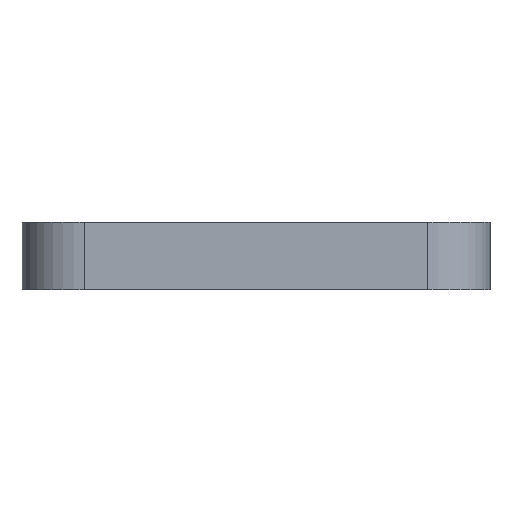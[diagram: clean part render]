
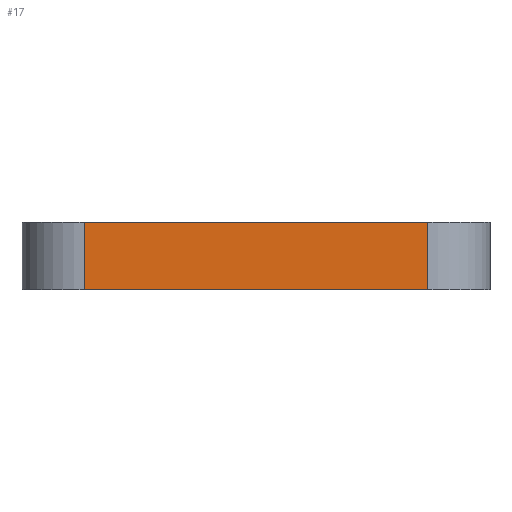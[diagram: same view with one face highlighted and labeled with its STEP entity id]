
A CAD part, left-side view. The second image highlights one B-rep face of the part: STEP entity #17.
In plain terms, the highlighted planar face has unit normal (-1, 0, 0).
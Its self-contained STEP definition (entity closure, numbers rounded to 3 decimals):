
#17 = ADVANCED_FACE('',(#18),#32,.F.);
#18 = FACE_BOUND('',#19,.F.);
#19 = EDGE_LOOP('',(#20,#55,#83,#111));
#20 = ORIENTED_EDGE('',*,*,#21,.T.);
#21 = EDGE_CURVE('',#22,#24,#26,.T.);
#22 = VERTEX_POINT('',#23);
#23 = CARTESIAN_POINT('',(-26.,-17.15,11.26));
#24 = VERTEX_POINT('',#25);
#25 = CARTESIAN_POINT('',(-26.,-19.35,11.26));
#26 = SURFACE_CURVE('',#27,(#31,#43),.PCURVE_S1.);
#27 = LINE('',#28,#29);
#28 = CARTESIAN_POINT('',(-26.,-59.875,11.26));
#29 = VECTOR('',#30,1.);
#30 = DIRECTION('',(0.,-1.,0.));
#31 = PCURVE('',#32,#37);
#32 = PLANE('',#33);
#33 = AXIS2_PLACEMENT_3D('',#34,#35,#36);
#34 = CARTESIAN_POINT('',(-26.,-19.75,10.83));
#35 = DIRECTION('',(1.,0.,0.));
#36 = DIRECTION('',(0.,0.,1.));
#37 = DEFINITIONAL_REPRESENTATION('',(#38),#42);
#38 = LINE('',#39,#40);
#39 = CARTESIAN_POINT('',(0.43,40.125));
#40 = VECTOR('',#41,1.);
#41 = DIRECTION('',(0.,1.));
#42 = ( GEOMETRIC_REPRESENTATION_CONTEXT(2) 
PARAMETRIC_REPRESENTATION_CONTEXT() REPRESENTATION_CONTEXT('2D SPACE',''
  ) );
#43 = PCURVE('',#44,#49);
#44 = PLANE('',#45);
#45 = AXIS2_PLACEMENT_3D('',#46,#47,#48);
#46 = CARTESIAN_POINT('',(-124.,-100.,11.26));
#47 = DIRECTION('',(0.,0.,1.));
#48 = DIRECTION('',(1.,0.,0.));
#49 = DEFINITIONAL_REPRESENTATION('',(#50),#54);
#50 = LINE('',#51,#52);
#51 = CARTESIAN_POINT('',(98.,40.125));
#52 = VECTOR('',#53,1.);
#53 = DIRECTION('',(0.,-1.));
#54 = ( GEOMETRIC_REPRESENTATION_CONTEXT(2) 
PARAMETRIC_REPRESENTATION_CONTEXT() REPRESENTATION_CONTEXT('2D SPACE',''
  ) );
#55 = ORIENTED_EDGE('',*,*,#56,.F.);
#56 = EDGE_CURVE('',#57,#24,#59,.T.);
#57 = VERTEX_POINT('',#58);
#58 = CARTESIAN_POINT('',(-26.,-19.35,10.83));
#59 = SURFACE_CURVE('',#60,(#64,#71),.PCURVE_S1.);
#60 = LINE('',#61,#62);
#61 = CARTESIAN_POINT('',(-26.,-19.35,10.83));
#62 = VECTOR('',#63,1.);
#63 = DIRECTION('',(0.,0.,1.));
#64 = PCURVE('',#32,#65);
#65 = DEFINITIONAL_REPRESENTATION('',(#66),#70);
#66 = LINE('',#67,#68);
#67 = CARTESIAN_POINT('',(0.,-0.4));
#68 = VECTOR('',#69,1.);
#69 = DIRECTION('',(1.,0.));
#70 = ( GEOMETRIC_REPRESENTATION_CONTEXT(2) 
PARAMETRIC_REPRESENTATION_CONTEXT() REPRESENTATION_CONTEXT('2D SPACE',''
  ) );
#71 = PCURVE('',#72,#77);
#72 = CYLINDRICAL_SURFACE('',#73,0.4);
#73 = AXIS2_PLACEMENT_3D('',#74,#75,#76);
#74 = CARTESIAN_POINT('',(-25.6,-19.35,10.83));
#75 = DIRECTION('',(0.,0.,1.));
#76 = DIRECTION('',(-1.,-0.,0.));
#77 = DEFINITIONAL_REPRESENTATION('',(#78),#82);
#78 = LINE('',#79,#80);
#79 = CARTESIAN_POINT('',(0.,0.));
#80 = VECTOR('',#81,1.);
#81 = DIRECTION('',(0.,1.));
#82 = ( GEOMETRIC_REPRESENTATION_CONTEXT(2) 
PARAMETRIC_REPRESENTATION_CONTEXT() REPRESENTATION_CONTEXT('2D SPACE',''
  ) );
#83 = ORIENTED_EDGE('',*,*,#84,.T.);
#84 = EDGE_CURVE('',#57,#85,#87,.T.);
#85 = VERTEX_POINT('',#86);
#86 = CARTESIAN_POINT('',(-26.,-17.15,10.83));
#87 = SURFACE_CURVE('',#88,(#92,#99),.PCURVE_S1.);
#88 = LINE('',#89,#90);
#89 = CARTESIAN_POINT('',(-26.,-19.75,10.83));
#90 = VECTOR('',#91,1.);
#91 = DIRECTION('',(0.,1.,0.));
#92 = PCURVE('',#32,#93);
#93 = DEFINITIONAL_REPRESENTATION('',(#94),#98);
#94 = LINE('',#95,#96);
#95 = CARTESIAN_POINT('',(0.,0.));
#96 = VECTOR('',#97,1.);
#97 = DIRECTION('',(0.,-1.));
#98 = ( GEOMETRIC_REPRESENTATION_CONTEXT(2) 
PARAMETRIC_REPRESENTATION_CONTEXT() REPRESENTATION_CONTEXT('2D SPACE',''
  ) );
#99 = PCURVE('',#100,#105);
#100 = PLANE('',#101);
#101 = AXIS2_PLACEMENT_3D('',#102,#103,#104);
#102 = CARTESIAN_POINT('',(-26.,-19.75,10.83));
#103 = DIRECTION('',(0.,0.,1.));
#104 = DIRECTION('',(1.,0.,-0.));
#105 = DEFINITIONAL_REPRESENTATION('',(#106),#110);
#106 = LINE('',#107,#108);
#107 = CARTESIAN_POINT('',(0.,0.));
#108 = VECTOR('',#109,1.);
#109 = DIRECTION('',(0.,1.));
#110 = ( GEOMETRIC_REPRESENTATION_CONTEXT(2) 
PARAMETRIC_REPRESENTATION_CONTEXT() REPRESENTATION_CONTEXT('2D SPACE',''
  ) );
#111 = ORIENTED_EDGE('',*,*,#112,.T.);
#112 = EDGE_CURVE('',#85,#22,#113,.T.);
#113 = SURFACE_CURVE('',#114,(#118,#125),.PCURVE_S1.);
#114 = LINE('',#115,#116);
#115 = CARTESIAN_POINT('',(-26.,-17.15,10.83));
#116 = VECTOR('',#117,1.);
#117 = DIRECTION('',(0.,0.,1.));
#118 = PCURVE('',#32,#119);
#119 = DEFINITIONAL_REPRESENTATION('',(#120),#124);
#120 = LINE('',#121,#122);
#121 = CARTESIAN_POINT('',(0.,-2.6));
#122 = VECTOR('',#123,1.);
#123 = DIRECTION('',(1.,0.));
#124 = ( GEOMETRIC_REPRESENTATION_CONTEXT(2) 
PARAMETRIC_REPRESENTATION_CONTEXT() REPRESENTATION_CONTEXT('2D SPACE',''
  ) );
#125 = PCURVE('',#126,#131);
#126 = CYLINDRICAL_SURFACE('',#127,0.4);
#127 = AXIS2_PLACEMENT_3D('',#128,#129,#130);
#128 = CARTESIAN_POINT('',(-25.6,-17.15,10.83));
#129 = DIRECTION('',(0.,0.,1.));
#130 = DIRECTION('',(-1.,-0.,0.));
#131 = DEFINITIONAL_REPRESENTATION('',(#132),#136);
#132 = LINE('',#133,#134);
#133 = CARTESIAN_POINT('',(6.283,0.));
#134 = VECTOR('',#135,1.);
#135 = DIRECTION('',(-0.,1.));
#136 = ( GEOMETRIC_REPRESENTATION_CONTEXT(2) 
PARAMETRIC_REPRESENTATION_CONTEXT() REPRESENTATION_CONTEXT('2D SPACE',''
  ) );
